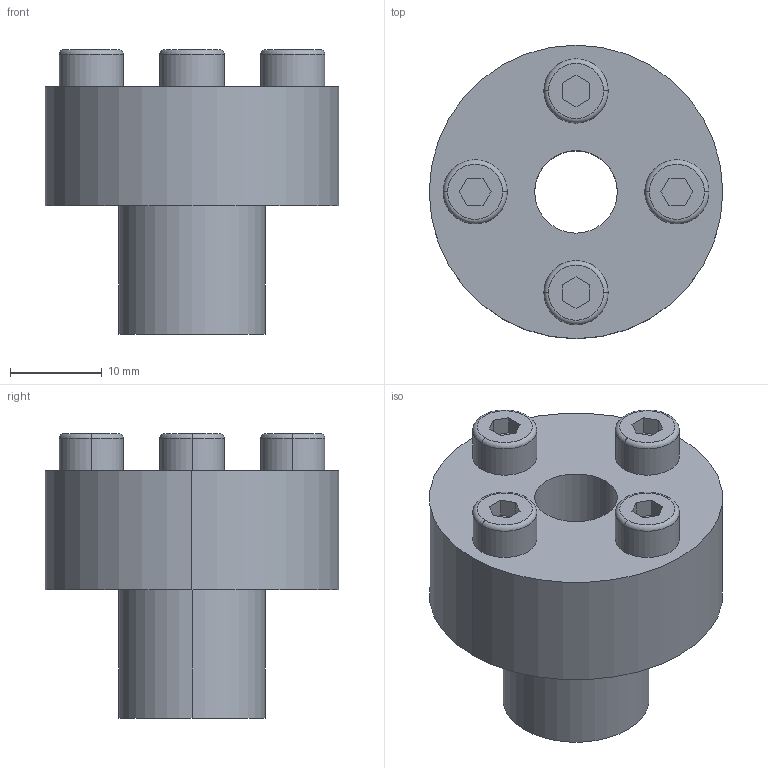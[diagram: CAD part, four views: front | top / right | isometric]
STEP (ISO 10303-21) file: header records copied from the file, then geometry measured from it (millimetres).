
FILE_DESCRIPTION (( 'STEP AP203' ), '1' );
FILE_NAME ('PL-C 9-16.STEP', '2021-10-22T08:24:14', ( '' ), ( '' ), 'SwSTEP 2.0', 'SolidWorks 2018', '' );
FILE_SCHEMA (( 'CONFIG_CONTROL_DESIGN' ));
Length unit declared in the file: millimetre
Products named in the file (1): PL-C 9-16
Bounding box: 32 x 32 x 31 mm (x, y, z)
Volume: 12080.2 mm3; surface area: 4668.3 mm2
Topology: 1 solids, 1 shells, 57 faces, 130 edges, 84 vertices
Faces by surface type: plane 35, cylinder 14, torus 8
Entity records: 1685 total; most frequent: DIRECTION 290, CARTESIAN_POINT 272, ORIENTED_EDGE 260, EDGE_CURVE 130, AXIS2_PLACEMENT_3D 102, LINE 86, VECTOR 86, VERTEX_POINT 84
